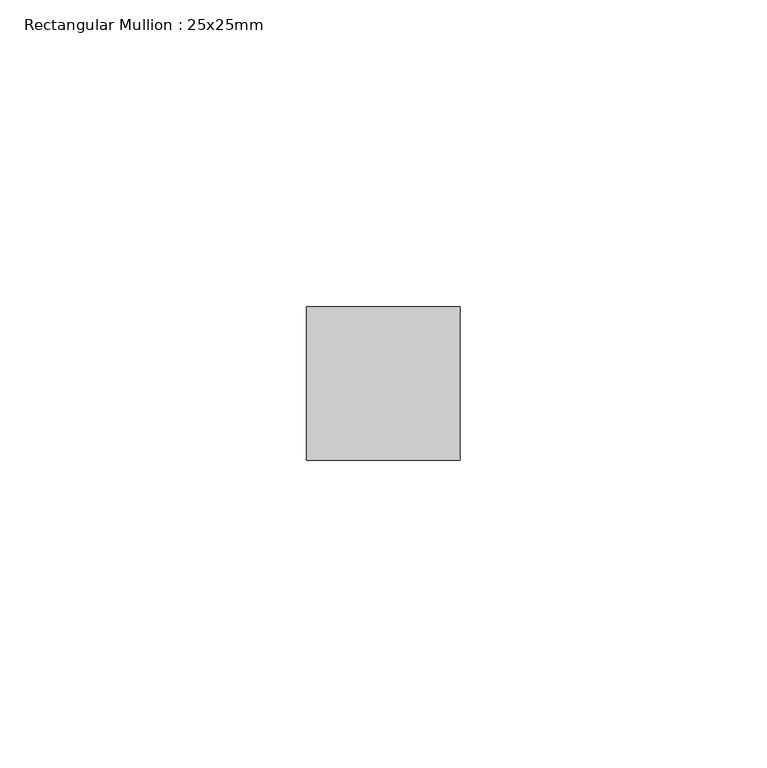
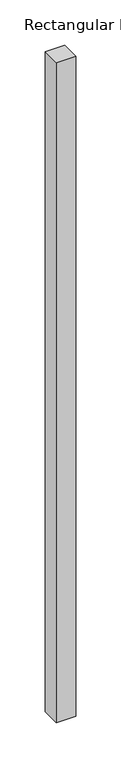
"""IFC4 building model written with IfcOpenShell, lengths in millimetres: member geometry, Rectangular Mullion : 25x25mm."""

from ifc_helpers import new_model, si_unit, frame, origin, place, context, project, spatial, polyline, outline, extrude, source, transform, mapped, element, save


def rectangular_mullion_25x25mm_e862664b(model_context):
    return source(origin(), model_context, "Body", "SweptSolid", [
        extrude(outline(polyline([(0.0, 24.5), (0.0, -0.5), (-25.0, -0.5), (-25.0, 24.5), (0.0, 24.5)])), frame((0.0, 0.0, -894.2603312), z_axis=(0.0, 0.0, 1.0), x_axis=(1.0, 0.0, 0.0)), (0.0, 0.0, 1.0), 894.2603312),
    ])


if __name__ == "__main__":
    model = new_model("IFC4")
    model_context = context("Model", 3, world=origin())
    ifc_project = project(units=[si_unit("LENGTHUNIT", "METRE", prefix="MILLI")], contexts=[model_context])
    site = spatial("IfcSite", under=ifc_project)
    building = spatial("IfcBuilding", under=site)
    placement = place(None, origin())
    rectangular_mullion_25x25mm_shape = rectangular_mullion_25x25mm_e862664b(model_context)
    element("IfcMember", 1, ObjectType="Rectangular Mullion : 25x25mm", at=placement, inside=building, context=model_context, shape_type="MappedRepresentation", body=[
        mapped(rectangular_mullion_25x25mm_shape, transform((0.0, 0.0, 0.0), x_axis=(1.0, 0.0, 0.0), y_axis=(0.0, 1.0, 0.0), z_axis=(0.0, 0.0, 1.0))),
    ])
    save(model, "model.ifc")
